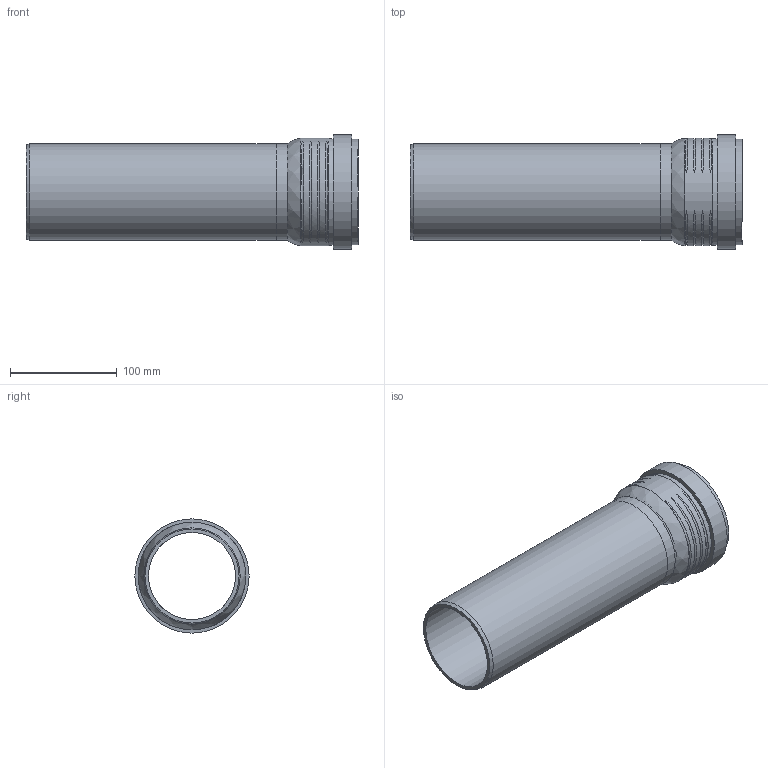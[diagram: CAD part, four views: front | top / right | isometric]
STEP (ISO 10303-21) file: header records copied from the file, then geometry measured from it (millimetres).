
FILE_DESCRIPTION(/* description */ (''),/* implementation_level */ '2;1');
FILE_NAME(/* name */ 'H:\Geberit-Teile\Export\PP_Rohr\stp\393401.stp',/* time_stamp */ '2017-02-13T16:07:05+01:00',/* author */ ('seihe2'),/* organization */ (''),/* preprocessor_version */ 'ST-DEVELOPER v15.2',/* originating_system */ 'Autodesk Inventor 2014',/* authorisation */ '');
FILE_SCHEMA (('AUTOMOTIVE_DESIGN { 1 0 10303 214 3 1 1 }'));
Length unit declared in the file: millimetre
Products named in the file (1): 393401
Bounding box: 311 x 107 x 107 mm (x, y, z)
Volume: 384173.1 mm3; surface area: 189798.2 mm2
Topology: 2 solids, 2 shells, 38 faces, 81 edges, 56 vertices
Faces by surface type: torus 17, cylinder 10, plane 8, cone 2, bspline 1
Full cylindrical faces by diameter (mm): 81.6 x2, 90.2 x2, 91 x1, 93 x1, 98.8 x1, 100 x1, 100.8 x1, 107 x1
Entity records: 2149 total; most frequent: CARTESIAN_POINT 1370, DIRECTION 130, ORIENTED_EDGE 124, EDGE_LOOP 69, AXIS2_PLACEMENT_3D 65, EDGE_CURVE 62, VERTEX_POINT 55, STYLED_ITEM 40
